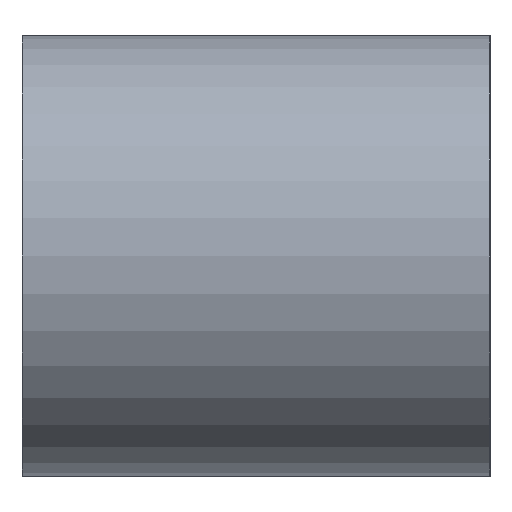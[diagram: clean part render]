
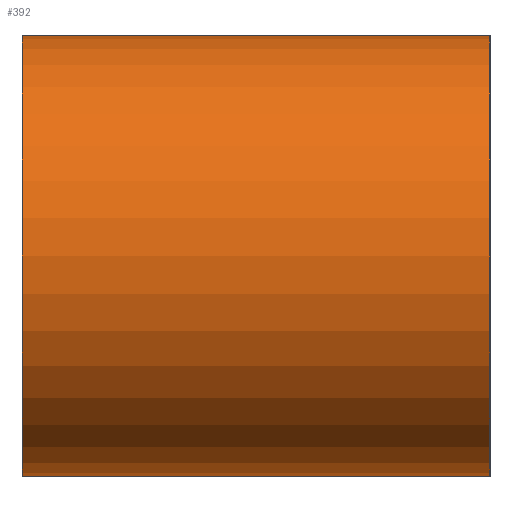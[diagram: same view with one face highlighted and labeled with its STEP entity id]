
A CAD part, left-side view. The second image highlights one B-rep face of the part: STEP entity #392.
In plain terms, the highlighted cylindrical face has radius 7.785 mm (diameter 15.57 mm), a partial arc.
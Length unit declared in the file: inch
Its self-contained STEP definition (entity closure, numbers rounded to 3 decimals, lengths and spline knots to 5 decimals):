
#2 = CARTESIAN_POINT ( 'NONE',  ( -0.63, 0.55, 0.3065 ) ) ;
#7 = VECTOR ( 'NONE', #115, 39.37008 ) ;
#14 = DIRECTION ( 'NONE',  ( 0., 1., 0. ) ) ;
#51 = EDGE_CURVE ( 'NONE', #365, #158, #112, .T. ) ;
#61 = CYLINDRICAL_SURFACE ( 'NONE', #445, 0.3065 ) ;
#85 = CARTESIAN_POINT ( 'NONE',  ( -0.63, 0.55, 0. ) ) ;
#94 = CIRCLE ( 'NONE', #337, 0.3065 ) ;
#98 = VERTEX_POINT ( 'NONE', #352 ) ;
#112 = LINE ( 'NONE', #138, #419 ) ;
#115 = DIRECTION ( 'NONE',  ( 0., -1., 0. ) ) ;
#120 = CARTESIAN_POINT ( 'NONE',  ( -0.63, -0.1, 0.3065 ) ) ;
#137 = EDGE_CURVE ( 'NONE', #158, #313, #94, .T. ) ;
#138 = CARTESIAN_POINT ( 'NONE',  ( -0.63, 0.55, 0.3065 ) ) ;
#149 = LINE ( 'NONE', #293, #7 ) ;
#151 = CIRCLE ( 'NONE', #420, 0.3065 ) ;
#158 = VERTEX_POINT ( 'NONE', #120 ) ;
#174 = ORIENTED_EDGE ( 'NONE', *, *, #470, .F. ) ;
#195 = DIRECTION ( 'NONE',  ( 0., 0., -1. ) ) ;
#207 = ORIENTED_EDGE ( 'NONE', *, *, #348, .T. ) ;
#231 = FACE_OUTER_BOUND ( 'NONE', #464, .T. ) ;
#233 = ORIENTED_EDGE ( 'NONE', *, *, #137, .F. ) ;
#238 = DIRECTION ( 'NONE',  ( 0., 0., -1. ) ) ;
#273 = DIRECTION ( 'NONE',  ( 0., -1., 0. ) ) ;
#291 = CARTESIAN_POINT ( 'NONE',  ( -0.63, -0.1, -0.3065 ) ) ;
#292 = CARTESIAN_POINT ( 'NONE',  ( -0.63, -0.1, 0. ) ) ;
#293 = CARTESIAN_POINT ( 'NONE',  ( -0.63, 0.55, -0.3065 ) ) ;
#313 = VERTEX_POINT ( 'NONE', #291 ) ;
#337 = AXIS2_PLACEMENT_3D ( 'NONE', #292, #454, #195 ) ;
#344 = CARTESIAN_POINT ( 'NONE',  ( -0.63, 0.55, 0. ) ) ;
#348 = EDGE_CURVE ( 'NONE', #98, #313, #149, .T. ) ;
#352 = CARTESIAN_POINT ( 'NONE',  ( -0.63, 0.55, -0.3065 ) ) ;
#365 = VERTEX_POINT ( 'NONE', #2 ) ;
#389 = ORIENTED_EDGE ( 'NONE', *, *, #51, .F. ) ;
#392 = ADVANCED_FACE ( 'NONE', ( #231 ), #61, .T. ) ;
#419 = VECTOR ( 'NONE', #436, 39.37008 ) ;
#420 = AXIS2_PLACEMENT_3D ( 'NONE', #344, #14, #450 ) ;
#436 = DIRECTION ( 'NONE',  ( 0., -1., 0. ) ) ;
#445 = AXIS2_PLACEMENT_3D ( 'NONE', #85, #273, #238 ) ;
#450 = DIRECTION ( 'NONE',  ( 1., 0., 0. ) ) ;
#454 = DIRECTION ( 'NONE',  ( 0., -1., 0. ) ) ;
#464 = EDGE_LOOP ( 'NONE', ( #207, #233, #389, #174 ) ) ;
#470 = EDGE_CURVE ( 'NONE', #98, #365, #151, .T. ) ;
